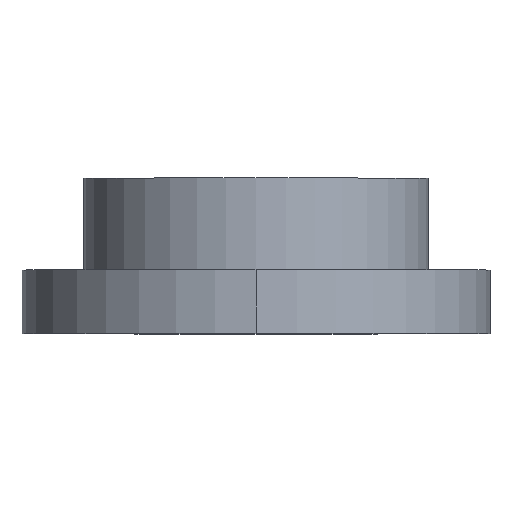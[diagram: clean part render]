
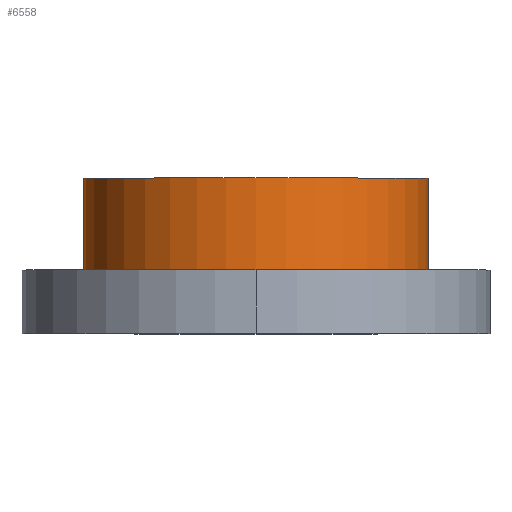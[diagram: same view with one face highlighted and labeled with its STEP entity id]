
A CAD part, top view. The second image highlights one B-rep face of the part: STEP entity #6558.
In plain terms, the highlighted cylindrical face has radius 97.5 mm (diameter 195 mm), a partial arc.
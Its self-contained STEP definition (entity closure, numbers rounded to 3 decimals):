
#158 = VERTEX_POINT ( 'NONE', #12827 ) ;
#279 = DIRECTION ( 'NONE',  ( 0., 0., 1. ) ) ;
#407 = ORIENTED_EDGE ( 'NONE', *, *, #10503, .T. ) ;
#794 = VECTOR ( 'NONE', #1144, 1000. ) ;
#1020 = CIRCLE ( 'NONE', #12589, 97.5 ) ;
#1144 = DIRECTION ( 'NONE',  ( 0., -1., 0. ) ) ;
#1205 = VERTEX_POINT ( 'NONE', #10942 ) ;
#2025 = ORIENTED_EDGE ( 'NONE', *, *, #4695, .F. ) ;
#2164 = LINE ( 'NONE', #10883, #794 ) ;
#3362 = CARTESIAN_POINT ( 'NONE',  ( 0., 55., -97.5 ) ) ;
#3477 = ORIENTED_EDGE ( 'NONE', *, *, #12159, .T. ) ;
#4042 = FACE_OUTER_BOUND ( 'NONE', #11180, .T. ) ;
#4408 = VERTEX_POINT ( 'NONE', #4872 ) ;
#4627 = CARTESIAN_POINT ( 'NONE',  ( 0., 55., 0. ) ) ;
#4695 = EDGE_CURVE ( 'NONE', #158, #4408, #2164, .T. ) ;
#4726 = CARTESIAN_POINT ( 'NONE',  ( 0., 0., 0. ) ) ;
#4872 = CARTESIAN_POINT ( 'NONE',  ( 0., 0., 97.5 ) ) ;
#5312 = CARTESIAN_POINT ( 'NONE',  ( 0., 55., 0. ) ) ;
#5413 = DIRECTION ( 'NONE',  ( 0., -1., 0. ) ) ;
#5618 = LINE ( 'NONE', #3362, #6446 ) ;
#6446 = VECTOR ( 'NONE', #5413, 1000. ) ;
#6460 = VERTEX_POINT ( 'NONE', #9372 ) ;
#6477 = CIRCLE ( 'NONE', #8294, 97.5 ) ;
#6558 = ADVANCED_FACE ( 'NONE', ( #4042 ), #8375, .T. ) ;
#7070 = DIRECTION ( 'NONE',  ( 0., 1., 0. ) ) ;
#7089 = EDGE_CURVE ( 'NONE', #6460, #158, #1020, .T. ) ;
#7958 = DIRECTION ( 'NONE',  ( 0., 1., 0. ) ) ;
#8294 = AXIS2_PLACEMENT_3D ( 'NONE', #4726, #7070, #11320 ) ;
#8375 = CYLINDRICAL_SURFACE ( 'NONE', #8728, 97.5 ) ;
#8728 = AXIS2_PLACEMENT_3D ( 'NONE', #5312, #9648, #12687 ) ;
#9372 = CARTESIAN_POINT ( 'NONE',  ( 0., 55., -97.5 ) ) ;
#9648 = DIRECTION ( 'NONE',  ( 0., -1., 0. ) ) ;
#10503 = EDGE_CURVE ( 'NONE', #6460, #1205, #5618, .T. ) ;
#10883 = CARTESIAN_POINT ( 'NONE',  ( 0., 55., 97.5 ) ) ;
#10942 = CARTESIAN_POINT ( 'NONE',  ( 0., 0., -97.5 ) ) ;
#11180 = EDGE_LOOP ( 'NONE', ( #2025, #12777, #407, #3477 ) ) ;
#11320 = DIRECTION ( 'NONE',  ( 0., 0., 1. ) ) ;
#12159 = EDGE_CURVE ( 'NONE', #1205, #4408, #6477, .T. ) ;
#12589 = AXIS2_PLACEMENT_3D ( 'NONE', #4627, #7958, #279 ) ;
#12687 = DIRECTION ( 'NONE',  ( 0., 0., -1. ) ) ;
#12777 = ORIENTED_EDGE ( 'NONE', *, *, #7089, .F. ) ;
#12827 = CARTESIAN_POINT ( 'NONE',  ( 0., 55., 97.5 ) ) ;
